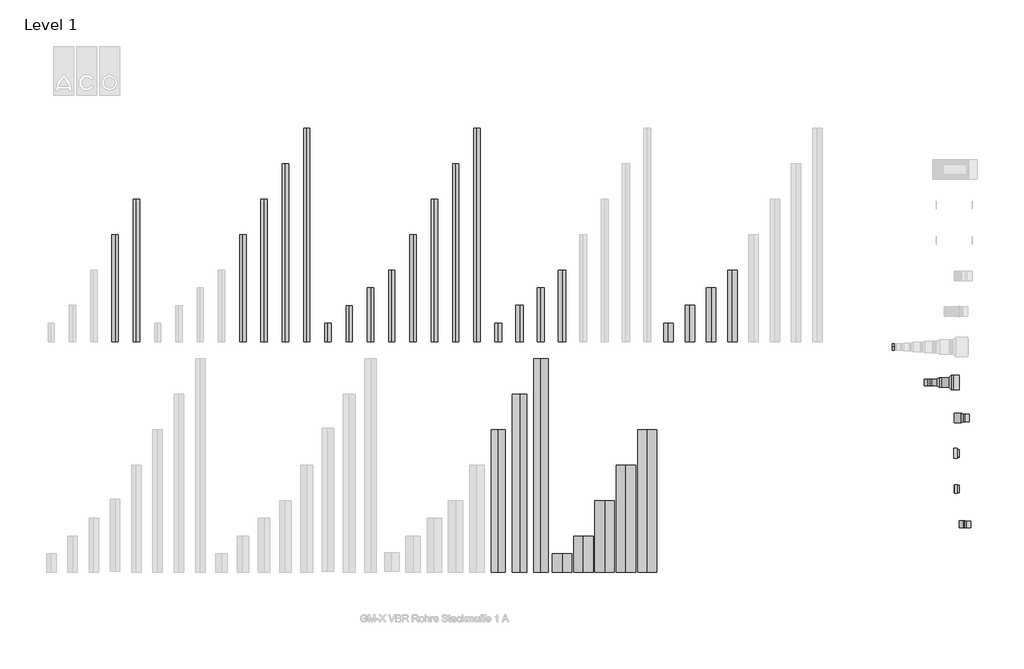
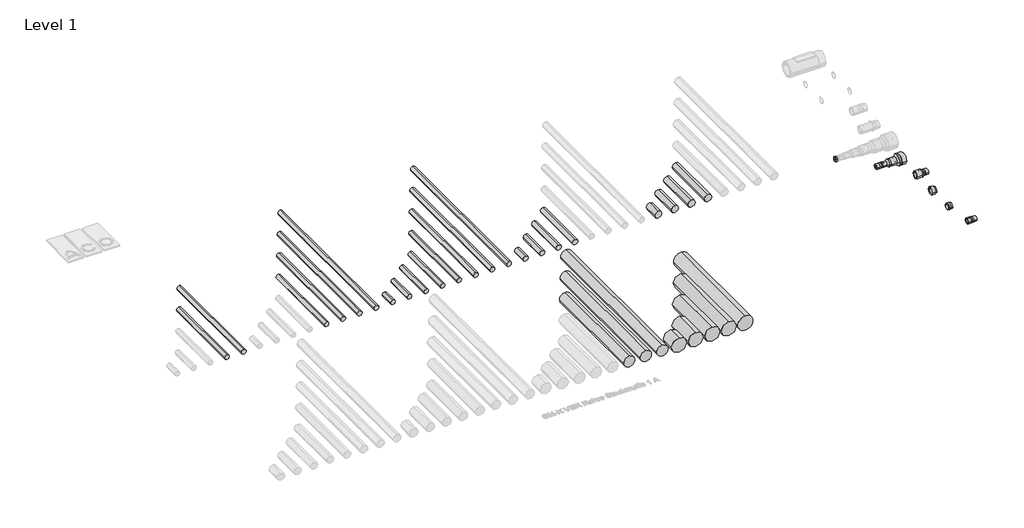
# One storey, part 3 of 4: 30 pipe segments, 20 pipe fittings.
"""IFC4 building model written with IfcOpenShell, lengths in millimetres."""

from ifc_helpers import new_model, si_unit, point, frame, frame_2d, origin, place, context, project, spatial, circle_curve, trimmed, segment, composite_curve, outline, extrude, transform, mapped, element, save
from components import std_f4b83b23, std_e7416d80, std_a092916b, std_ed1bc5fe, std_nested_b5da4da4, std_nested_f3e63bdc, std_nested_e31ceb24, std_nested_457d7e35, std_nested_42e1da43, std_nested_a67ed7a0, std_nested_69f55aa1, std_nested_9446fb41, std_nested_8359234f, std_nested_ff61fb87, with_clamp_eb68ef93

model = new_model("IFC4")

# Units and contexts
model_context = context("Model", 3, world=origin())
ifc_project = project(units=[si_unit("LENGTHUNIT", "METRE", prefix="MILLI")], contexts=[model_context])

# Site, building, storey
site = spatial("IfcSite", under=ifc_project)
building = spatial("IfcBuilding", under=site)
storey = spatial("IfcBuildingStorey", under=building, Name="Level 1", Elevation=0.0)

# Pipe fittings
placement = place(None, origin())
std_shape = std_f4b83b23(model_context)
element("IfcPipeFitting", 1, ObjectType="PIF_ST_UN_GM-X compound pipe multi-optimiser (multiport)_ACO : std", at=placement, inside=storey, context=model_context, shape_type="MappedRepresentation", body=[
    mapped(std_shape, transform((12354.0, 3175.0, 0.0), x_axis=(1.0, 0.0, 0.0), y_axis=(0.0, 1.0, 0.0), z_axis=(0.0, 0.0, 1.0))),
])
std_2_shape = std_e7416d80(model_context)
element("IfcPipeFitting", 2, ObjectType="PIF_ST_UN_GM-X compound pipe multi-reducer (multiport)_ACO : std", at=placement, inside=storey, context=model_context, shape_type="MappedRepresentation", body=[
    mapped(std_2_shape, transform((12830.0, 2675.0, 0.0), x_axis=(1.0, 0.0, 0.0), y_axis=(0.0, 1.0, 0.0), z_axis=(0.0, 0.0, 1.0))),
])
std_3_shape = std_a092916b(model_context)
element("IfcPipeFitting", 3, ObjectType="PIF_ST_UN_GM-X compound pipe optimiser (multiport)_ACO : std", at=placement, inside=storey, context=model_context, shape_type="MappedRepresentation", body=[
    mapped(std_3_shape, transform((13300.0, 2175.0, 0.0), x_axis=(1.0, 0.0, 0.0), y_axis=(0.0, 1.0, 0.0), z_axis=(0.0, 0.0, 1.0))),
])
std_4_shape = std_ed1bc5fe(model_context)
element("IfcPipeFitting", 4, ObjectType="PIF_ST_UN_GM-X compound pipe reducer (multiport)_ACO : std", at=placement, inside=storey, context=model_context, shape_type="MappedRepresentation", body=[
    mapped(std_4_shape, transform((13300.0, 675.0, 0.0), x_axis=(1.0, 0.0, 0.0), y_axis=(0.0, 1.0, 0.0), z_axis=(0.0, 0.0, 1.0))),
])
std_nested_shape = std_nested_b5da4da4(model_context)
element("IfcPipeFitting", 5, ObjectType="ZZZ_do not use_PIF_ST_WPB_GM-X compound pipe reducer_ACO : std (nested)", at=placement, inside=storey, context=model_context, shape_type="MappedRepresentation", body=[
    mapped(std_nested_shape, transform((12950.0, 2675.0, 0.0), x_axis=(1.0, 0.0, 0.0), y_axis=(0.0, 1.0, 0.0), z_axis=(0.0, 0.0, 1.0))),
])
std_nested_2_shape = std_nested_f3e63bdc(model_context)
element("IfcPipeFitting", 6, ObjectType="ZZZ_do not use_PIF_ST_WPB_GM-X compound pipe reducer_ACO : std (nested)", at=placement, inside=storey, context=model_context, shape_type="MappedRepresentation", body=[
    mapped(std_nested_2_shape, transform((13120.0, 2675.0, 0.0), x_axis=(1.0, 0.0, 0.0), y_axis=(0.0, 1.0, 0.0), z_axis=(0.0, 0.0, 1.0))),
])
std_nested_3_shape = std_nested_e31ceb24(model_context)
element("IfcPipeFitting", 7, ObjectType="ZZZ_do not use_PIF_ST_WPB_GM-X compound pipe reducer_ACO : std (nested)", at=placement, inside=storey, context=model_context, shape_type="MappedRepresentation", body=[
    mapped(std_nested_3_shape, transform((13300.0, 2675.0, 0.0), x_axis=(1.0, 0.0, 0.0), y_axis=(0.0, 1.0, 0.0), z_axis=(0.0, 0.0, 1.0))),
])
std_nested_4_shape = std_nested_457d7e35(model_context)
element("IfcPipeFitting", 8, ObjectType="ZZZ_do not use_PIF_GEN_WPB_GM-X (compound) pipe seal_ACO : std (nested)", at=placement, inside=storey, context=model_context, shape_type="MappedRepresentation", body=[
    mapped(std_nested_4_shape, transform((13300.0, 1675.0, 0.0), x_axis=(0.0, -1.0, 0.0), y_axis=(0.0, 0.0, -1.0), z_axis=(1.0, 0.0, 0.0))),
])
element("IfcPipeFitting", 9, ObjectType="ZZZ_do not use_PIF_GEN_WPB_GM-X (compound) pipe seal_ACO : std (nested)", at=placement, inside=storey, context=model_context, shape_type="MappedRepresentation", body=[
    mapped(std_nested_4_shape, transform((13300.0, 1175.0, 0.0), x_axis=(0.0, -1.0, 0.0), y_axis=(0.0, 0.0, -1.0), z_axis=(1.0, 0.0, 0.0))),
])
std_nested_5_shape = std_nested_42e1da43(model_context)
element("IfcPipeFitting", 10, ObjectType="ZZZ_do not use_PIF_GEN_WPB_GM-X (compound) pipe seal_ACO : std (nested)", at=placement, inside=storey, context=model_context, shape_type="MappedRepresentation", body=[
    mapped(std_nested_5_shape, transform((13050.0, 2675.0, 0.0), x_axis=(0.0, 1.0, 0.0), y_axis=(0.0, 0.0, -1.0), z_axis=(-1.0, 0.0, 0.0))),
])
element("IfcPipeFitting", 11, ObjectType="ZZZ_do not use_PIF_GEN_WPB_GM-X (compound) pipe seal_ACO : std (nested)", at=placement, inside=storey, context=model_context, shape_type="MappedRepresentation", body=[
    mapped(std_nested_5_shape, transform((13230.0, 2175.0, 0.0), x_axis=(0.0, 1.0, 0.0), y_axis=(0.0, 0.0, -1.0), z_axis=(-1.0, 0.0, 0.0))),
])
std_nested_6_shape = std_nested_a67ed7a0(model_context)
element("IfcPipeFitting", 12, ObjectType="ZZZ_do not use_PIF_GEN_WPB_GM-X (compound) pipe seal_ACO : std (nested)", at=placement, inside=storey, context=model_context, shape_type="MappedRepresentation", body=[
    mapped(std_nested_6_shape, transform((12804.0, 2675.0, 0.0), x_axis=(0.0, 1.0, 0.0), y_axis=(0.0, 0.0, -1.0), z_axis=(-1.0, 0.0, 0.0))),
])
std_nested_7_shape = std_nested_69f55aa1(model_context)
element("IfcPipeFitting", 13, ObjectType="ZZZ_do not use_PIF_GEN_WPB_GM-X (compound) pipe seal_ACO : std (nested)", at=placement, inside=storey, context=model_context, shape_type="MappedRepresentation", body=[
    mapped(std_nested_7_shape, transform((12912.0, 2675.0, 0.0), x_axis=(0.0, 1.0, 0.0), y_axis=(0.0, 0.0, -1.0), z_axis=(-1.0, 0.0, 0.0))),
])
element("IfcPipeFitting", 14, ObjectType="ZZZ_do not use_PIF_GEN_WPB_GM-X (compound) pipe seal_ACO : std (nested)", at=placement, inside=storey, context=model_context, shape_type="MappedRepresentation", body=[
    mapped(std_nested_7_shape, transform((13458.0, 675.0, 0.0), x_axis=(0.0, -1.0, 0.0), y_axis=(0.0, 0.0, -1.0), z_axis=(1.0, 0.0, 0.0))),
])
std_nested_8_shape = std_nested_9446fb41(model_context)
element("IfcPipeFitting", 15, ObjectType="ZZZ_do not use_PIF_GEN_WPB_GM-X (compound) pipe seal_ACO : std (nested)", at=placement, inside=storey, context=model_context, shape_type="MappedRepresentation", body=[
    mapped(std_nested_8_shape, transform((13300.0, 2675.0, 0.0), x_axis=(0.0, -1.0, 0.0), y_axis=(0.0, 0.0, -1.0), z_axis=(1.0, 0.0, 0.0))),
])
std_nested_9_shape = std_nested_8359234f(model_context)
element("IfcPipeFitting", 16, ObjectType="ZZZ_do not use_PIF_GEN_WPB_GM-X (compound) pipe seal_ACO : std (nested)", at=placement, inside=storey, context=model_context, shape_type="MappedRepresentation", body=[
    mapped(std_nested_9_shape, transform((13440.0, 2175.0, 0.0), x_axis=(0.0, -1.0, 0.0), y_axis=(0.0, 0.0, -1.0), z_axis=(1.0, 0.0, 0.0))),
])
element("IfcPipeFitting", 17, ObjectType="ZZZ_do not use_PIF_GEN_WPB_GM-X (compound) pipe seal_ACO : std (nested)", at=placement, inside=storey, context=model_context, shape_type="MappedRepresentation", body=[
    mapped(std_nested_9_shape, transform((13300.0, 675.0, 0.0), x_axis=(0.0, 1.0, 0.0), y_axis=(0.0, 0.0, -1.0), z_axis=(-1.0, 0.0, 0.0))),
])
std_nested_10_shape = std_nested_ff61fb87(model_context)
element("IfcPipeFitting", 18, ObjectType="ZZZ_do not use_PIF_ST_WPB_GM-X compound pipe clamp_ACO : std (nested)", at=placement, inside=storey, context=model_context, shape_type="MappedRepresentation", body=[
    mapped(std_nested_10_shape, transform((13300.0, 1675.0, 0.0), x_axis=(0.0, -1.0, 0.0), y_axis=(0.0, 0.0, -1.0), z_axis=(1.0, 0.0, 0.0))),
])
with_clamp_shape = with_clamp_eb68ef93(model_context)
element("IfcPipeFitting", 19, ObjectType="PIF_ST_UN_GM-X compound pipe pipe-end (multiport)_ACO : with clamp", at=placement, inside=storey, context=model_context, shape_type="MappedRepresentation", body=[
    mapped(with_clamp_shape, transform((13300.0, 1675.0, 0.0), x_axis=(1.0, 0.0, 0.0), y_axis=(0.0, 1.0, 0.0), z_axis=(0.0, 0.0, 1.0))),
])
element("IfcPipeFitting", 20, ObjectType="PIF_ST_UN_GM-X compound pipe pipe-end (multiport)_ACO : without clamp", at=placement, inside=storey, context=model_context, shape_type="MappedRepresentation", body=[
    mapped(with_clamp_shape, transform((13300.0, 1175.0, 0.0), x_axis=(1.0, 0.0, 0.0), y_axis=(0.0, 1.0, 0.0), z_axis=(0.0, 0.0, 1.0))),
])

# Pipe segments
element("IfcPipeSegment", 21, ObjectType="GM-X compound pipe", at=placement, inside=storey, context=model_context, shape_type="SweptSolid", body=[
    extrude(outline(composite_curve([segment(trimmed(circle_curve(frame_2d((0.0, 1400.0)), 44.5), [point((0.0, 1444.5))], [point((44.5, 1400.0))], False, "CARTESIAN"), True, "CONTINUOUS"), segment(trimmed(circle_curve(frame_2d((0.0, 1400.0)), 44.5), [point((44.5, 1400.0))], [point((0.0, 1355.5))], False, "CARTESIAN"), True, "CONTINUOUS"), segment(trimmed(circle_curve(frame_2d((0.0, 1400.0)), 44.5), [point((0.0, 1355.5))], [point((-44.5, 1400.0))], False, "CARTESIAN"), True, "CONTINUOUS"), segment(trimmed(circle_curve(frame_2d((0.0, 1400.0)), 44.5), [point((-44.5, 1400.0))], [point((0.0, 1444.5))], False, "CARTESIAN"), True, "CONTINUOUS")], self_intersect=False)), frame((0.0, 3250.0, 0.0), z_axis=(0.0, 1.0, 0.0), x_axis=(0.0, 0.0, 1.0)), (0.0, 0.0, 1.0), 1510.0),
])
element("IfcPipeSegment", 22, ObjectType="GM-X compound pipe", at=placement, inside=storey, context=model_context, shape_type="SweptSolid", body=[
    extrude(outline(composite_curve([segment(trimmed(circle_curve(frame_2d((0.0, 1700.0)), 44.5), [point((0.0, 1744.5))], [point((44.5, 1700.0))], False, "CARTESIAN"), True, "CONTINUOUS"), segment(trimmed(circle_curve(frame_2d((0.0, 1700.0)), 44.5), [point((44.5, 1700.0))], [point((0.0, 1655.5))], False, "CARTESIAN"), True, "CONTINUOUS"), segment(trimmed(circle_curve(frame_2d((0.0, 1700.0)), 44.5), [point((0.0, 1655.5))], [point((-44.5, 1700.0))], False, "CARTESIAN"), True, "CONTINUOUS"), segment(trimmed(circle_curve(frame_2d((0.0, 1700.0)), 44.5), [point((-44.5, 1700.0))], [point((0.0, 1744.5))], False, "CARTESIAN"), True, "CONTINUOUS")], self_intersect=False)), frame((0.0, 3250.0, 0.0), z_axis=(0.0, 1.0, 0.0), x_axis=(0.0, 0.0, 1.0)), (0.0, 0.0, 1.0), 2010.0),
])
element("IfcPipeSegment", 23, ObjectType="GM-X compound pipe", at=placement, inside=storey, context=model_context, shape_type="SweptSolid", body=[
    extrude(outline(composite_curve([segment(trimmed(circle_curve(frame_2d((0.0, 3200.0)), 44.5), [point((0.0, 3244.5))], [point((44.5, 3200.0))], False, "CARTESIAN"), True, "CONTINUOUS"), segment(trimmed(circle_curve(frame_2d((0.0, 3200.0)), 44.5), [point((44.5, 3200.0))], [point((0.0, 3155.5))], False, "CARTESIAN"), True, "CONTINUOUS"), segment(trimmed(circle_curve(frame_2d((0.0, 3200.0)), 44.5), [point((0.0, 3155.5))], [point((-44.5, 3200.0))], False, "CARTESIAN"), True, "CONTINUOUS"), segment(trimmed(circle_curve(frame_2d((0.0, 3200.0)), 44.5), [point((-44.5, 3200.0))], [point((0.0, 3244.5))], False, "CARTESIAN"), True, "CONTINUOUS")], self_intersect=False)), frame((0.0, 3250.0, 0.0), z_axis=(0.0, 1.0, 0.0), x_axis=(0.0, 0.0, 1.0)), (0.0, 0.0, 1.0), 1508.0),
])
element("IfcPipeSegment", 24, ObjectType="GM-X compound pipe", at=placement, inside=storey, context=model_context, shape_type="SweptSolid", body=[
    extrude(outline(composite_curve([segment(trimmed(circle_curve(frame_2d((0.0, 3500.0)), 44.5), [point((0.0, 3544.5))], [point((44.5, 3500.0))], False, "CARTESIAN"), True, "CONTINUOUS"), segment(trimmed(circle_curve(frame_2d((0.0, 3500.0)), 44.5), [point((44.5, 3500.0))], [point((0.0, 3455.5))], False, "CARTESIAN"), True, "CONTINUOUS"), segment(trimmed(circle_curve(frame_2d((0.0, 3500.0)), 44.5), [point((0.0, 3455.5))], [point((-44.5, 3500.0))], False, "CARTESIAN"), True, "CONTINUOUS"), segment(trimmed(circle_curve(frame_2d((0.0, 3500.0)), 44.5), [point((-44.5, 3500.0))], [point((0.0, 3544.5))], False, "CARTESIAN"), True, "CONTINUOUS")], self_intersect=False)), frame((0.0, 3250.0, 0.0), z_axis=(0.0, 1.0, 0.0), x_axis=(0.0, 0.0, 1.0)), (0.0, 0.0, 1.0), 2008.0),
])
element("IfcPipeSegment", 25, ObjectType="GM-X compound pipe", at=placement, inside=storey, context=model_context, shape_type="SweptSolid", body=[
    extrude(outline(composite_curve([segment(trimmed(circle_curve(frame_2d((0.0, 3800.0)), 44.5), [point((0.0, 3844.5))], [point((44.5, 3800.0))], False, "CARTESIAN"), True, "CONTINUOUS"), segment(trimmed(circle_curve(frame_2d((0.0, 3800.0)), 44.5), [point((44.5, 3800.0))], [point((0.0, 3755.5))], False, "CARTESIAN"), True, "CONTINUOUS"), segment(trimmed(circle_curve(frame_2d((0.0, 3800.0)), 44.5), [point((0.0, 3755.5))], [point((-44.5, 3800.0))], False, "CARTESIAN"), True, "CONTINUOUS"), segment(trimmed(circle_curve(frame_2d((0.0, 3800.0)), 44.5), [point((-44.5, 3800.0))], [point((0.0, 3844.5))], False, "CARTESIAN"), True, "CONTINUOUS")], self_intersect=False)), frame((0.0, 3250.0, 0.0), z_axis=(0.0, 1.0, 0.0), x_axis=(0.0, 0.0, 1.0)), (0.0, 0.0, 1.0), 2510.0),
])
element("IfcPipeSegment", 26, ObjectType="GM-X compound pipe", at=placement, inside=storey, context=model_context, shape_type="SweptSolid", body=[
    extrude(outline(composite_curve([segment(trimmed(circle_curve(frame_2d((0.0, 4100.0)), 44.5), [point((0.0, 4144.5))], [point((44.5, 4100.0))], False, "CARTESIAN"), True, "CONTINUOUS"), segment(trimmed(circle_curve(frame_2d((0.0, 4100.0)), 44.5), [point((44.5, 4100.0))], [point((0.0, 4055.5))], False, "CARTESIAN"), True, "CONTINUOUS"), segment(trimmed(circle_curve(frame_2d((0.0, 4100.0)), 44.5), [point((0.0, 4055.5))], [point((-44.5, 4100.0))], False, "CARTESIAN"), True, "CONTINUOUS"), segment(trimmed(circle_curve(frame_2d((0.0, 4100.0)), 44.5), [point((-44.5, 4100.0))], [point((0.0, 4144.5))], False, "CARTESIAN"), True, "CONTINUOUS")], self_intersect=False)), frame((0.0, 3250.0, 0.0), z_axis=(0.0, 1.0, 0.0), x_axis=(0.0, 0.0, 1.0)), (0.0, 0.0, 1.0), 3008.0),
])
element("IfcPipeSegment", 27, ObjectType="GM-X compound pipe", at=placement, inside=storey, context=model_context, shape_type="SweptSolid", body=[
    extrude(outline(composite_curve([segment(trimmed(circle_curve(frame_2d((0.0, 4400.0)), 44.5), [point((0.0, 4444.5))], [point((44.5, 4400.0))], False, "CARTESIAN"), True, "CONTINUOUS"), segment(trimmed(circle_curve(frame_2d((0.0, 4400.0)), 44.5), [point((44.5, 4400.0))], [point((0.0, 4355.5))], False, "CARTESIAN"), True, "CONTINUOUS"), segment(trimmed(circle_curve(frame_2d((0.0, 4400.0)), 44.5), [point((0.0, 4355.5))], [point((-44.5, 4400.0))], False, "CARTESIAN"), True, "CONTINUOUS"), segment(trimmed(circle_curve(frame_2d((0.0, 4400.0)), 44.5), [point((-44.5, 4400.0))], [point((0.0, 4444.5))], False, "CARTESIAN"), True, "CONTINUOUS")], self_intersect=False)), frame((0.0, 3250.0, 0.0), z_axis=(0.0, 1.0, 0.0), x_axis=(0.0, 0.0, 1.0)), (0.0, 0.0, 1.0), 258.0),
])
element("IfcPipeSegment", 28, ObjectType="GM-X compound pipe", at=placement, inside=storey, context=model_context, shape_type="SweptSolid", body=[
    extrude(outline(composite_curve([segment(trimmed(circle_curve(frame_2d((0.0, 4700.0)), 44.5), [point((0.0, 4744.5))], [point((44.5, 4700.0))], False, "CARTESIAN"), True, "CONTINUOUS"), segment(trimmed(circle_curve(frame_2d((0.0, 4700.0)), 44.5), [point((44.5, 4700.0))], [point((0.0, 4655.5))], False, "CARTESIAN"), True, "CONTINUOUS"), segment(trimmed(circle_curve(frame_2d((0.0, 4700.0)), 44.5), [point((0.0, 4655.5))], [point((-44.5, 4700.0))], False, "CARTESIAN"), True, "CONTINUOUS"), segment(trimmed(circle_curve(frame_2d((0.0, 4700.0)), 44.5), [point((-44.5, 4700.0))], [point((0.0, 4744.5))], False, "CARTESIAN"), True, "CONTINUOUS")], self_intersect=False)), frame((0.0, 3250.0, 0.0), z_axis=(0.0, 1.0, 0.0), x_axis=(0.0, 0.0, 1.0)), (0.0, 0.0, 1.0), 508.0),
])
element("IfcPipeSegment", 29, ObjectType="GM-X compound pipe", at=placement, inside=storey, context=model_context, shape_type="SweptSolid", body=[
    extrude(outline(composite_curve([segment(trimmed(circle_curve(frame_2d((0.0, 5000.0)), 44.5), [point((0.0, 5044.5))], [point((44.5, 5000.0))], False, "CARTESIAN"), True, "CONTINUOUS"), segment(trimmed(circle_curve(frame_2d((0.0, 5000.0)), 44.5), [point((44.5, 5000.0))], [point((0.0, 4955.5))], False, "CARTESIAN"), True, "CONTINUOUS"), segment(trimmed(circle_curve(frame_2d((0.0, 5000.0)), 44.5), [point((0.0, 4955.5))], [point((-44.5, 5000.0))], False, "CARTESIAN"), True, "CONTINUOUS"), segment(trimmed(circle_curve(frame_2d((0.0, 5000.0)), 44.5), [point((-44.5, 5000.0))], [point((0.0, 5044.5))], False, "CARTESIAN"), True, "CONTINUOUS")], self_intersect=False)), frame((0.0, 3250.0, 0.0), z_axis=(0.0, 1.0, 0.0), x_axis=(0.0, 0.0, 1.0)), (0.0, 0.0, 1.0), 758.0),
])
element("IfcPipeSegment", 30, ObjectType="GM-X compound pipe", at=placement, inside=storey, context=model_context, shape_type="SweptSolid", body=[
    extrude(outline(composite_curve([segment(trimmed(circle_curve(frame_2d((0.0, 5300.0)), 44.5), [point((0.0, 5344.5))], [point((44.5, 5300.0))], False, "CARTESIAN"), True, "CONTINUOUS"), segment(trimmed(circle_curve(frame_2d((0.0, 5300.0)), 44.5), [point((44.5, 5300.0))], [point((0.0, 5255.5))], False, "CARTESIAN"), True, "CONTINUOUS"), segment(trimmed(circle_curve(frame_2d((0.0, 5300.0)), 44.5), [point((0.0, 5255.5))], [point((-44.5, 5300.0))], False, "CARTESIAN"), True, "CONTINUOUS"), segment(trimmed(circle_curve(frame_2d((0.0, 5300.0)), 44.5), [point((-44.5, 5300.0))], [point((0.0, 5344.5))], False, "CARTESIAN"), True, "CONTINUOUS")], self_intersect=False)), frame((0.0, 3250.0, 0.0), z_axis=(0.0, 1.0, 0.0), x_axis=(0.0, 0.0, 1.0)), (0.0, 0.0, 1.0), 1008.0),
])
element("IfcPipeSegment", 31, ObjectType="GM-X compound pipe", at=placement, inside=storey, context=model_context, shape_type="SweptSolid", body=[
    extrude(outline(composite_curve([segment(trimmed(circle_curve(frame_2d((0.0, 5600.0)), 44.5), [point((0.0, 5644.5))], [point((44.5, 5600.0))], False, "CARTESIAN"), True, "CONTINUOUS"), segment(trimmed(circle_curve(frame_2d((0.0, 5600.0)), 44.5), [point((44.5, 5600.0))], [point((0.0, 5555.5))], False, "CARTESIAN"), True, "CONTINUOUS"), segment(trimmed(circle_curve(frame_2d((0.0, 5600.0)), 44.5), [point((0.0, 5555.5))], [point((-44.5, 5600.0))], False, "CARTESIAN"), True, "CONTINUOUS"), segment(trimmed(circle_curve(frame_2d((0.0, 5600.0)), 44.5), [point((-44.5, 5600.0))], [point((0.0, 5644.5))], False, "CARTESIAN"), True, "CONTINUOUS")], self_intersect=False)), frame((0.0, 3250.0, 0.0), z_axis=(0.0, 1.0, 0.0), x_axis=(0.0, 0.0, 1.0)), (0.0, 0.0, 1.0), 1508.0),
])
element("IfcPipeSegment", 32, ObjectType="GM-X compound pipe", at=placement, inside=storey, context=model_context, shape_type="SweptSolid", body=[
    extrude(outline(composite_curve([segment(trimmed(circle_curve(frame_2d((0.0, 5900.0)), 44.5), [point((0.0, 5944.5))], [point((44.5, 5900.0))], False, "CARTESIAN"), True, "CONTINUOUS"), segment(trimmed(circle_curve(frame_2d((0.0, 5900.0)), 44.5), [point((44.5, 5900.0))], [point((0.0, 5855.5))], False, "CARTESIAN"), True, "CONTINUOUS"), segment(trimmed(circle_curve(frame_2d((0.0, 5900.0)), 44.5), [point((0.0, 5855.5))], [point((-44.5, 5900.0))], False, "CARTESIAN"), True, "CONTINUOUS"), segment(trimmed(circle_curve(frame_2d((0.0, 5900.0)), 44.5), [point((-44.5, 5900.0))], [point((0.0, 5944.5))], False, "CARTESIAN"), True, "CONTINUOUS")], self_intersect=False)), frame((0.0, 3250.0, 0.0), z_axis=(0.0, 1.0, 0.0), x_axis=(0.0, 0.0, 1.0)), (0.0, 0.0, 1.0), 2008.0),
])
element("IfcPipeSegment", 33, ObjectType="GM-X compound pipe", at=placement, inside=storey, context=model_context, shape_type="SweptSolid", body=[
    extrude(outline(composite_curve([segment(trimmed(circle_curve(frame_2d((0.0, 6200.0)), 44.5), [point((0.0, 6244.5))], [point((44.5, 6200.0))], False, "CARTESIAN"), True, "CONTINUOUS"), segment(trimmed(circle_curve(frame_2d((0.0, 6200.0)), 44.5), [point((44.5, 6200.0))], [point((0.0, 6155.5))], False, "CARTESIAN"), True, "CONTINUOUS"), segment(trimmed(circle_curve(frame_2d((0.0, 6200.0)), 44.5), [point((0.0, 6155.5))], [point((-44.5, 6200.0))], False, "CARTESIAN"), True, "CONTINUOUS"), segment(trimmed(circle_curve(frame_2d((0.0, 6200.0)), 44.5), [point((-44.5, 6200.0))], [point((0.0, 6244.5))], False, "CARTESIAN"), True, "CONTINUOUS")], self_intersect=False)), frame((0.0, 3250.0, 0.0), z_axis=(0.0, 1.0, 0.0), x_axis=(0.0, 0.0, 1.0)), (0.0, 0.0, 1.0), 2510.0),
])
element("IfcPipeSegment", 34, ObjectType="GM-X compound pipe", at=placement, inside=storey, context=model_context, shape_type="SweptSolid", body=[
    extrude(outline(composite_curve([segment(trimmed(circle_curve(frame_2d((0.0, 6500.0)), 44.5), [point((0.0, 6544.5))], [point((44.5, 6500.0))], False, "CARTESIAN"), True, "CONTINUOUS"), segment(trimmed(circle_curve(frame_2d((0.0, 6500.0)), 44.5), [point((44.5, 6500.0))], [point((0.0, 6455.5))], False, "CARTESIAN"), True, "CONTINUOUS"), segment(trimmed(circle_curve(frame_2d((0.0, 6500.0)), 44.5), [point((0.0, 6455.5))], [point((-44.5, 6500.0))], False, "CARTESIAN"), True, "CONTINUOUS"), segment(trimmed(circle_curve(frame_2d((0.0, 6500.0)), 44.5), [point((-44.5, 6500.0))], [point((0.0, 6544.5))], False, "CARTESIAN"), True, "CONTINUOUS")], self_intersect=False)), frame((0.0, 3250.0, 0.0), z_axis=(0.0, 1.0, 0.0), x_axis=(0.0, 0.0, 1.0)), (0.0, 0.0, 1.0), 3008.0),
])
element("IfcPipeSegment", 35, ObjectType="GM-X compound pipe", at=placement, inside=storey, context=model_context, shape_type="SweptSolid", body=[
    extrude(outline(composite_curve([segment(trimmed(circle_curve(frame_2d((0.0, 6800.0)), 51.0), [point((0.0, 6851.0))], [point((51.0, 6800.0))], False, "CARTESIAN"), True, "CONTINUOUS"), segment(trimmed(circle_curve(frame_2d((0.0, 6800.0)), 51.0), [point((51.0, 6800.0))], [point((0.0, 6749.0))], False, "CARTESIAN"), True, "CONTINUOUS"), segment(trimmed(circle_curve(frame_2d((0.0, 6800.0)), 51.0), [point((0.0, 6749.0))], [point((-51.0, 6800.0))], False, "CARTESIAN"), True, "CONTINUOUS"), segment(trimmed(circle_curve(frame_2d((0.0, 6800.0)), 51.0), [point((-51.0, 6800.0))], [point((0.0, 6851.0))], False, "CARTESIAN"), True, "CONTINUOUS")], self_intersect=False)), frame((0.0, 3250.0, 0.0), z_axis=(0.0, 1.0, 0.0), x_axis=(0.0, 0.0, 1.0)), (0.0, 0.0, 1.0), 260.0),
])
element("IfcPipeSegment", 36, ObjectType="GM-X compound pipe", at=placement, inside=storey, context=model_context, shape_type="SweptSolid", body=[
    extrude(outline(composite_curve([segment(trimmed(circle_curve(frame_2d((0.0, 7100.0)), 51.0), [point((0.0, 7151.0))], [point((51.0, 7100.0))], False, "CARTESIAN"), True, "CONTINUOUS"), segment(trimmed(circle_curve(frame_2d((0.0, 7100.0)), 51.0), [point((51.0, 7100.0))], [point((0.0, 7049.0))], False, "CARTESIAN"), True, "CONTINUOUS"), segment(trimmed(circle_curve(frame_2d((0.0, 7100.0)), 51.0), [point((0.0, 7049.0))], [point((-51.0, 7100.0))], False, "CARTESIAN"), True, "CONTINUOUS"), segment(trimmed(circle_curve(frame_2d((0.0, 7100.0)), 51.0), [point((-51.0, 7100.0))], [point((0.0, 7151.0))], False, "CARTESIAN"), True, "CONTINUOUS")], self_intersect=False)), frame((0.0, 3250.0, 0.0), z_axis=(0.0, 1.0, 0.0), x_axis=(0.0, 0.0, 1.0)), (0.0, 0.0, 1.0), 510.0),
])
element("IfcPipeSegment", 37, ObjectType="GM-X compound pipe", at=placement, inside=storey, context=model_context, shape_type="SweptSolid", body=[
    extrude(outline(composite_curve([segment(trimmed(circle_curve(frame_2d((0.0, 7400.0)), 51.0), [point((0.0, 7451.0))], [point((51.0, 7400.0))], False, "CARTESIAN"), True, "CONTINUOUS"), segment(trimmed(circle_curve(frame_2d((0.0, 7400.0)), 51.0), [point((51.0, 7400.0))], [point((0.0, 7349.0))], False, "CARTESIAN"), True, "CONTINUOUS"), segment(trimmed(circle_curve(frame_2d((0.0, 7400.0)), 51.0), [point((0.0, 7349.0))], [point((-51.0, 7400.0))], False, "CARTESIAN"), True, "CONTINUOUS"), segment(trimmed(circle_curve(frame_2d((0.0, 7400.0)), 51.0), [point((-51.0, 7400.0))], [point((0.0, 7451.0))], False, "CARTESIAN"), True, "CONTINUOUS")], self_intersect=False)), frame((0.0, 3250.0, 0.0), z_axis=(0.0, 1.0, 0.0), x_axis=(0.0, 0.0, 1.0)), (0.0, 0.0, 1.0), 760.0),
])
element("IfcPipeSegment", 38, ObjectType="GM-X compound pipe", at=placement, inside=storey, context=model_context, shape_type="SweptSolid", body=[
    extrude(outline(composite_curve([segment(trimmed(circle_curve(frame_2d((0.0, 7700.0)), 51.0), [point((0.0, 7751.0))], [point((51.0, 7700.0))], False, "CARTESIAN"), True, "CONTINUOUS"), segment(trimmed(circle_curve(frame_2d((0.0, 7700.0)), 51.0), [point((51.0, 7700.0))], [point((0.0, 7649.0))], False, "CARTESIAN"), True, "CONTINUOUS"), segment(trimmed(circle_curve(frame_2d((0.0, 7700.0)), 51.0), [point((0.0, 7649.0))], [point((-51.0, 7700.0))], False, "CARTESIAN"), True, "CONTINUOUS"), segment(trimmed(circle_curve(frame_2d((0.0, 7700.0)), 51.0), [point((-51.0, 7700.0))], [point((0.0, 7751.0))], False, "CARTESIAN"), True, "CONTINUOUS")], self_intersect=False)), frame((0.0, 3250.0, 0.0), z_axis=(0.0, 1.0, 0.0), x_axis=(0.0, 0.0, 1.0)), (0.0, 0.0, 1.0), 1010.0),
])
element("IfcPipeSegment", 39, ObjectType="GM-X compound pipe", at=placement, inside=storey, context=model_context, shape_type="SweptSolid", body=[
    extrude(outline(composite_curve([segment(trimmed(circle_curve(frame_2d((0.0, 9200.0)), 67.0), [point((0.0, 9267.0))], [point((67.0, 9200.0))], False, "CARTESIAN"), True, "CONTINUOUS"), segment(trimmed(circle_curve(frame_2d((0.0, 9200.0)), 67.0), [point((67.0, 9200.0))], [point((0.0, 9133.0))], False, "CARTESIAN"), True, "CONTINUOUS"), segment(trimmed(circle_curve(frame_2d((0.0, 9200.0)), 67.0), [point((0.0, 9133.0))], [point((-67.0, 9200.0))], False, "CARTESIAN"), True, "CONTINUOUS"), segment(trimmed(circle_curve(frame_2d((0.0, 9200.0)), 67.0), [point((-67.0, 9200.0))], [point((0.0, 9267.0))], False, "CARTESIAN"), True, "CONTINUOUS")], self_intersect=False)), frame((0.0, 3250.0, 0.0), z_axis=(0.0, 1.0, 0.0), x_axis=(0.0, 0.0, 1.0)), (0.0, 0.0, 1.0), 260.0),
])
element("IfcPipeSegment", 40, ObjectType="GM-X compound pipe", at=placement, inside=storey, context=model_context, shape_type="SweptSolid", body=[
    extrude(outline(composite_curve([segment(trimmed(circle_curve(frame_2d((0.0, 9500.0)), 67.0), [point((0.0, 9567.0))], [point((67.0, 9500.0))], False, "CARTESIAN"), True, "CONTINUOUS"), segment(trimmed(circle_curve(frame_2d((0.0, 9500.0)), 67.0), [point((67.0, 9500.0))], [point((0.0, 9433.0))], False, "CARTESIAN"), True, "CONTINUOUS"), segment(trimmed(circle_curve(frame_2d((0.0, 9500.0)), 67.0), [point((0.0, 9433.0))], [point((-67.0, 9500.0))], False, "CARTESIAN"), True, "CONTINUOUS"), segment(trimmed(circle_curve(frame_2d((0.0, 9500.0)), 67.0), [point((-67.0, 9500.0))], [point((0.0, 9567.0))], False, "CARTESIAN"), True, "CONTINUOUS")], self_intersect=False)), frame((0.0, 3250.0, 0.0), z_axis=(0.0, 1.0, 0.0), x_axis=(0.0, 0.0, 1.0)), (0.0, 0.0, 1.0), 510.0),
])
element("IfcPipeSegment", 41, ObjectType="GM-X compound pipe", at=placement, inside=storey, context=model_context, shape_type="SweptSolid", body=[
    extrude(outline(composite_curve([segment(trimmed(circle_curve(frame_2d((0.0, 9800.0)), 67.0), [point((0.0, 9867.0))], [point((67.0, 9800.0))], False, "CARTESIAN"), True, "CONTINUOUS"), segment(trimmed(circle_curve(frame_2d((0.0, 9800.0)), 67.0), [point((67.0, 9800.0))], [point((0.0, 9733.0))], False, "CARTESIAN"), True, "CONTINUOUS"), segment(trimmed(circle_curve(frame_2d((0.0, 9800.0)), 67.0), [point((0.0, 9733.0))], [point((-67.0, 9800.0))], False, "CARTESIAN"), True, "CONTINUOUS"), segment(trimmed(circle_curve(frame_2d((0.0, 9800.0)), 67.0), [point((-67.0, 9800.0))], [point((0.0, 9867.0))], False, "CARTESIAN"), True, "CONTINUOUS")], self_intersect=False)), frame((0.0, 3250.0, 0.0), z_axis=(0.0, 1.0, 0.0), x_axis=(0.0, 0.0, 1.0)), (0.0, 0.0, 1.0), 760.0),
])
element("IfcPipeSegment", 42, ObjectType="GM-X compound pipe", at=placement, inside=storey, context=model_context, shape_type="SweptSolid", body=[
    extrude(outline(composite_curve([segment(trimmed(circle_curve(frame_2d((0.0, 10100.0)), 67.0), [point((0.0, 10167.0))], [point((67.0, 10100.0))], False, "CARTESIAN"), True, "CONTINUOUS"), segment(trimmed(circle_curve(frame_2d((0.0, 10100.0)), 67.0), [point((67.0, 10100.0))], [point((0.0, 10033.0))], False, "CARTESIAN"), True, "CONTINUOUS"), segment(trimmed(circle_curve(frame_2d((0.0, 10100.0)), 67.0), [point((0.0, 10033.0))], [point((-67.0, 10100.0))], False, "CARTESIAN"), True, "CONTINUOUS"), segment(trimmed(circle_curve(frame_2d((0.0, 10100.0)), 67.0), [point((-67.0, 10100.0))], [point((0.0, 10167.0))], False, "CARTESIAN"), True, "CONTINUOUS")], self_intersect=False)), frame((0.0, 3250.0, 0.0), z_axis=(0.0, 1.0, 0.0), x_axis=(0.0, 0.0, 1.0)), (0.0, 0.0, 1.0), 1010.0),
])
element("IfcPipeSegment", 43, ObjectType="GM-X compound pipe", at=placement, inside=storey, context=model_context, shape_type="SweptSolid", body=[
    extrude(outline(composite_curve([segment(trimmed(circle_curve(frame_2d((0.0, 6800.0)), 102.0), [point((0.0, 6902.0))], [point((102.0, 6800.0))], False, "CARTESIAN"), True, "CONTINUOUS"), segment(trimmed(circle_curve(frame_2d((0.0, 6800.0)), 102.0), [point((102.0, 6800.0))], [point((0.0, 6698.0))], False, "CARTESIAN"), True, "CONTINUOUS"), segment(trimmed(circle_curve(frame_2d((0.0, 6800.0)), 102.0), [point((0.0, 6698.0))], [point((-102.0, 6800.0))], False, "CARTESIAN"), True, "CONTINUOUS"), segment(trimmed(circle_curve(frame_2d((0.0, 6800.0)), 102.0), [point((-102.0, 6800.0))], [point((0.0, 6902.0))], False, "CARTESIAN"), True, "CONTINUOUS")], self_intersect=False)), frame((0.0, 0.0, 0.0), z_axis=(0.0, 1.0, 0.0), x_axis=(0.0, 0.0, 1.0)), (0.0, 0.0, 1.0), 2010.0),
])
element("IfcPipeSegment", 44, ObjectType="GM-X compound pipe", at=placement, inside=storey, context=model_context, shape_type="SweptSolid", body=[
    extrude(outline(composite_curve([segment(trimmed(circle_curve(frame_2d((0.0, 7100.0)), 102.0), [point((0.0, 7202.0))], [point((102.0, 7100.0))], False, "CARTESIAN"), True, "CONTINUOUS"), segment(trimmed(circle_curve(frame_2d((0.0, 7100.0)), 102.0), [point((102.0, 7100.0))], [point((0.0, 6998.0))], False, "CARTESIAN"), True, "CONTINUOUS"), segment(trimmed(circle_curve(frame_2d((0.0, 7100.0)), 102.0), [point((0.0, 6998.0))], [point((-102.0, 7100.0))], False, "CARTESIAN"), True, "CONTINUOUS"), segment(trimmed(circle_curve(frame_2d((0.0, 7100.0)), 102.0), [point((-102.0, 7100.0))], [point((0.0, 7202.0))], False, "CARTESIAN"), True, "CONTINUOUS")], self_intersect=False)), frame((0.0, 0.0, 0.0), z_axis=(0.0, 1.0, 0.0), x_axis=(0.0, 0.0, 1.0)), (0.0, 0.0, 1.0), 2510.0),
])
element("IfcPipeSegment", 45, ObjectType="GM-X compound pipe", at=placement, inside=storey, context=model_context, shape_type="SweptSolid", body=[
    extrude(outline(composite_curve([segment(trimmed(circle_curve(frame_2d((0.0, 7400.0)), 102.0), [point((0.0, 7502.0))], [point((102.0, 7400.0))], False, "CARTESIAN"), True, "CONTINUOUS"), segment(trimmed(circle_curve(frame_2d((0.0, 7400.0)), 102.0), [point((102.0, 7400.0))], [point((0.0, 7298.0))], False, "CARTESIAN"), True, "CONTINUOUS"), segment(trimmed(circle_curve(frame_2d((0.0, 7400.0)), 102.0), [point((0.0, 7298.0))], [point((-102.0, 7400.0))], False, "CARTESIAN"), True, "CONTINUOUS"), segment(trimmed(circle_curve(frame_2d((0.0, 7400.0)), 102.0), [point((-102.0, 7400.0))], [point((0.0, 7502.0))], False, "CARTESIAN"), True, "CONTINUOUS")], self_intersect=False)), frame((0.0, 0.0, 0.0), z_axis=(0.0, 1.0, 0.0), x_axis=(0.0, 0.0, 1.0)), (0.0, 0.0, 1.0), 3010.0),
])
element("IfcPipeSegment", 46, ObjectType="GM-X compound pipe", at=placement, inside=storey, context=model_context, shape_type="SweptSolid", body=[
    extrude(outline(composite_curve([segment(trimmed(circle_curve(frame_2d((0.0, 7700.0)), 136.5), [point((0.0, 7836.5))], [point((136.5, 7700.0))], False, "CARTESIAN"), True, "CONTINUOUS"), segment(trimmed(circle_curve(frame_2d((0.0, 7700.0)), 136.5), [point((136.5, 7700.0))], [point((0.0, 7563.5))], False, "CARTESIAN"), True, "CONTINUOUS"), segment(trimmed(circle_curve(frame_2d((0.0, 7700.0)), 136.5), [point((0.0, 7563.5))], [point((-136.5, 7700.0))], False, "CARTESIAN"), True, "CONTINUOUS"), segment(trimmed(circle_curve(frame_2d((0.0, 7700.0)), 136.5), [point((-136.5, 7700.0))], [point((0.0, 7836.5))], False, "CARTESIAN"), True, "CONTINUOUS")], self_intersect=False)), frame((0.0, 0.0, 0.0), z_axis=(0.0, 1.0, 0.0), x_axis=(0.0, 0.0, 1.0)), (0.0, 0.0, 1.0), 260.0),
])
element("IfcPipeSegment", 47, ObjectType="GM-X compound pipe", at=placement, inside=storey, context=model_context, shape_type="SweptSolid", body=[
    extrude(outline(composite_curve([segment(trimmed(circle_curve(frame_2d((0.0, 8000.0)), 136.5), [point((0.0, 8136.5))], [point((136.5, 8000.0))], False, "CARTESIAN"), True, "CONTINUOUS"), segment(trimmed(circle_curve(frame_2d((0.0, 8000.0)), 136.5), [point((136.5, 8000.0))], [point((0.0, 7863.5))], False, "CARTESIAN"), True, "CONTINUOUS"), segment(trimmed(circle_curve(frame_2d((0.0, 8000.0)), 136.5), [point((0.0, 7863.5))], [point((-136.5, 8000.0))], False, "CARTESIAN"), True, "CONTINUOUS"), segment(trimmed(circle_curve(frame_2d((0.0, 8000.0)), 136.5), [point((-136.5, 8000.0))], [point((0.0, 8136.5))], False, "CARTESIAN"), True, "CONTINUOUS")], self_intersect=False)), frame((0.0, 0.0, 0.0), z_axis=(0.0, 1.0, 0.0), x_axis=(0.0, 0.0, 1.0)), (0.0, 0.0, 1.0), 510.0),
])
element("IfcPipeSegment", 48, ObjectType="GM-X compound pipe", at=placement, inside=storey, context=model_context, shape_type="SweptSolid", body=[
    extrude(outline(composite_curve([segment(trimmed(circle_curve(frame_2d((0.0, 8300.0)), 136.5), [point((0.0, 8436.5))], [point((136.5, 8300.0))], False, "CARTESIAN"), True, "CONTINUOUS"), segment(trimmed(circle_curve(frame_2d((0.0, 8300.0)), 136.5), [point((136.5, 8300.0))], [point((0.0, 8163.5))], False, "CARTESIAN"), True, "CONTINUOUS"), segment(trimmed(circle_curve(frame_2d((0.0, 8300.0)), 136.5), [point((0.0, 8163.5))], [point((-136.5, 8300.0))], False, "CARTESIAN"), True, "CONTINUOUS"), segment(trimmed(circle_curve(frame_2d((0.0, 8300.0)), 136.5), [point((-136.5, 8300.0))], [point((0.0, 8436.5))], False, "CARTESIAN"), True, "CONTINUOUS")], self_intersect=False)), frame((0.0, 0.0, 0.0), z_axis=(0.0, 1.0, 0.0), x_axis=(0.0, 0.0, 1.0)), (0.0, 0.0, 1.0), 1010.0),
])
element("IfcPipeSegment", 49, ObjectType="GM-X compound pipe", at=placement, inside=storey, context=model_context, shape_type="SweptSolid", body=[
    extrude(outline(composite_curve([segment(trimmed(circle_curve(frame_2d((0.0, 8600.0)), 136.5), [point((0.0, 8736.5))], [point((136.5, 8600.0))], False, "CARTESIAN"), True, "CONTINUOUS"), segment(trimmed(circle_curve(frame_2d((0.0, 8600.0)), 136.5), [point((136.5, 8600.0))], [point((0.0, 8463.5))], False, "CARTESIAN"), True, "CONTINUOUS"), segment(trimmed(circle_curve(frame_2d((0.0, 8600.0)), 136.5), [point((0.0, 8463.5))], [point((-136.5, 8600.0))], False, "CARTESIAN"), True, "CONTINUOUS"), segment(trimmed(circle_curve(frame_2d((0.0, 8600.0)), 136.5), [point((-136.5, 8600.0))], [point((0.0, 8736.5))], False, "CARTESIAN"), True, "CONTINUOUS")], self_intersect=False)), frame((0.0, 0.0, 0.0), z_axis=(0.0, 1.0, 0.0), x_axis=(0.0, 0.0, 1.0)), (0.0, 0.0, 1.0), 1510.0),
])
element("IfcPipeSegment", 50, ObjectType="GM-X compound pipe", at=placement, inside=storey, context=model_context, shape_type="SweptSolid", body=[
    extrude(outline(composite_curve([segment(trimmed(circle_curve(frame_2d((0.0, 8900.0)), 136.5), [point((0.0, 9036.5))], [point((136.5, 8900.0))], False, "CARTESIAN"), True, "CONTINUOUS"), segment(trimmed(circle_curve(frame_2d((0.0, 8900.0)), 136.5), [point((136.5, 8900.0))], [point((0.0, 8763.5))], False, "CARTESIAN"), True, "CONTINUOUS"), segment(trimmed(circle_curve(frame_2d((0.0, 8900.0)), 136.5), [point((0.0, 8763.5))], [point((-136.5, 8900.0))], False, "CARTESIAN"), True, "CONTINUOUS"), segment(trimmed(circle_curve(frame_2d((0.0, 8900.0)), 136.5), [point((-136.5, 8900.0))], [point((0.0, 9036.5))], False, "CARTESIAN"), True, "CONTINUOUS")], self_intersect=False)), frame((0.0, 0.0, 0.0), z_axis=(0.0, 1.0, 0.0), x_axis=(0.0, 0.0, 1.0)), (0.0, 0.0, 1.0), 2010.0),
])

save(model, "model.ifc")
